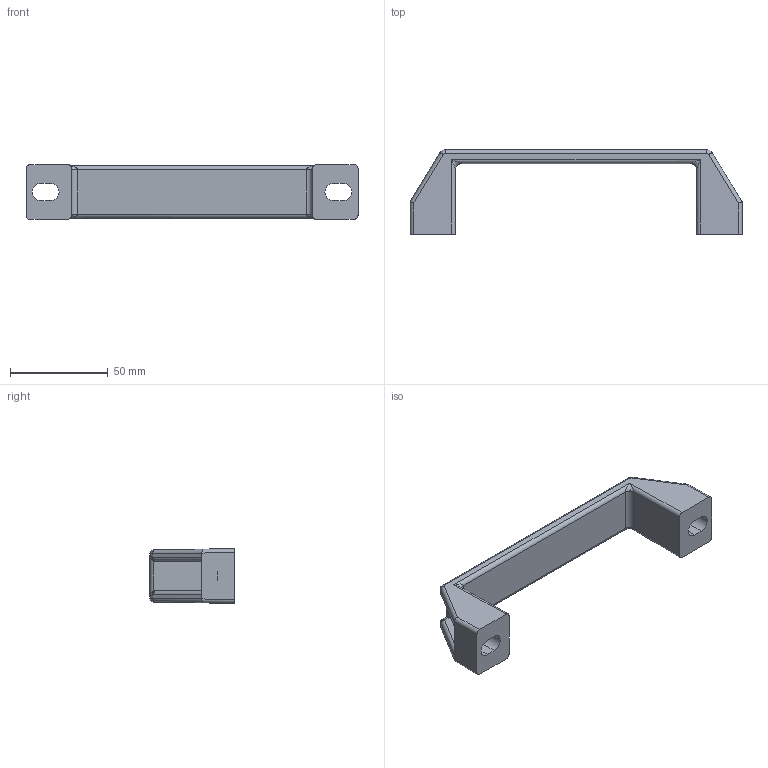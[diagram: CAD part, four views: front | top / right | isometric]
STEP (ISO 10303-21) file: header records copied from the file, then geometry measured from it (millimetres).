
FILE_DESCRIPTION (( 'STEP AP203' ), '1' );
FILE_NAME ('XG01-014.STEP', '2025-06-27T00:28:29', ( '微软用户' ), ( '微软中国' ), 'SwSTEP 2.0', 'SolidWorks 2024', '' );
FILE_SCHEMA (( 'CONFIG_CONTROL_DESIGN' ));
Length unit declared in the file: millimetre
Products named in the file (1): XG01-014
Bounding box: 169.43 x 43 x 28 mm (x, y, z)
Volume: 49764.6 mm3; surface area: 19413.5 mm2
Topology: 1 solids, 1 shells, 93 faces, 239 edges, 142 vertices
Faces by surface type: cylinder 41, plane 32, bspline 16, torus 4
Entity records: 3190 total; most frequent: CARTESIAN_POINT 1097, ORIENTED_EDGE 462, DIRECTION 381, EDGE_CURVE 231, VERTEX_POINT 142, AXIS2_PLACEMENT_3D 130, VECTOR 121, LINE 121
